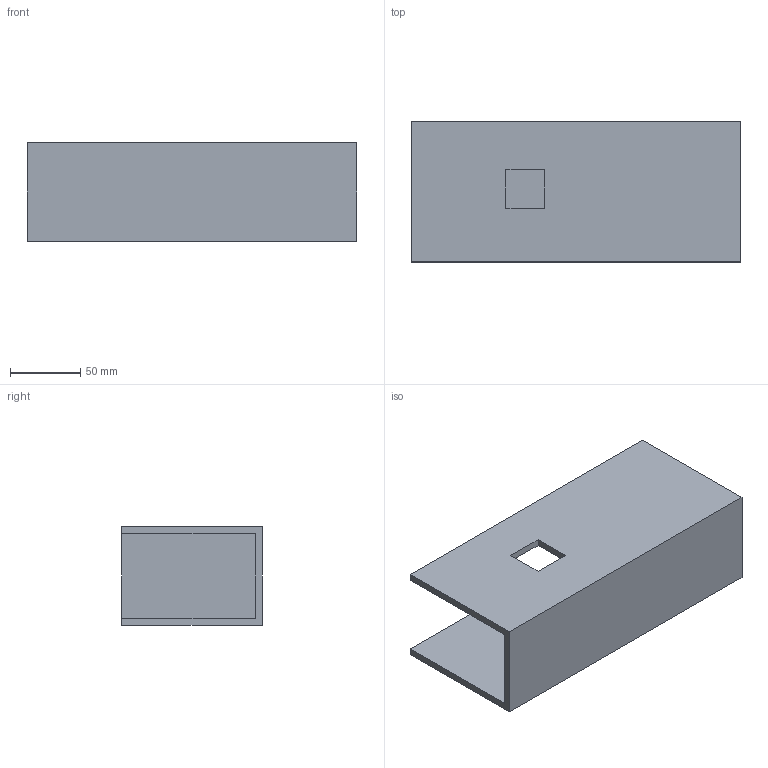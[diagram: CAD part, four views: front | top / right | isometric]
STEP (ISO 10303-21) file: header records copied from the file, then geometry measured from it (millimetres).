
FILE_DESCRIPTION(/* description */ ('STEP AP242 Edition 2','CAx-IF Rec.Pracs.---Representation and Presentation of Product Manufacturing Information (PMI)---4.0---2014-10-13','CAx-IF Rec.Pracs.---3D Tessellated Geometry---0.4---2014-09-14','2;1','CAx-IF Rec.Pracs.---User Defined Attributes---1.5---2016-08-15'),/* implementation_level */ '2;1');
FILE_NAME(/* name */ 'Part Studio 1 - Part 2',/* time_stamp */ '2026-06-01T06:01:17Z',/* author */ (''),/* organization */ (''),/* preprocessor_version */ 'ST-DEVELOPER v20',/* originating_system */ 'ONSHAPE BY PTC INC, 1.215',/* authorisation */ ' ');
FILE_SCHEMA (('AP242_MANAGED_MODEL_BASED_3D_ENGINEERING_MIM_LF { 1 0 10303 442 3 1 4 }'));
Length unit declared in the file: metre
Products named in the file (1): Part 2
Bounding box: 235 x 100 x 70 mm (x, y, z)
Volume: 330218.7 mm3; surface area: 136637.5 mm2
Topology: 1 solids, 1 shells, 14 faces, 36 edges, 24 vertices
Faces by surface type: plane 14
Entity records: 446 total; most frequent: CARTESIAN_POINT 75, ORIENTED_EDGE 72, DIRECTION 66, EDGE_CURVE 36, LINE 36, VECTOR 36, VERTEX_POINT 24, EDGE_LOOP 16
